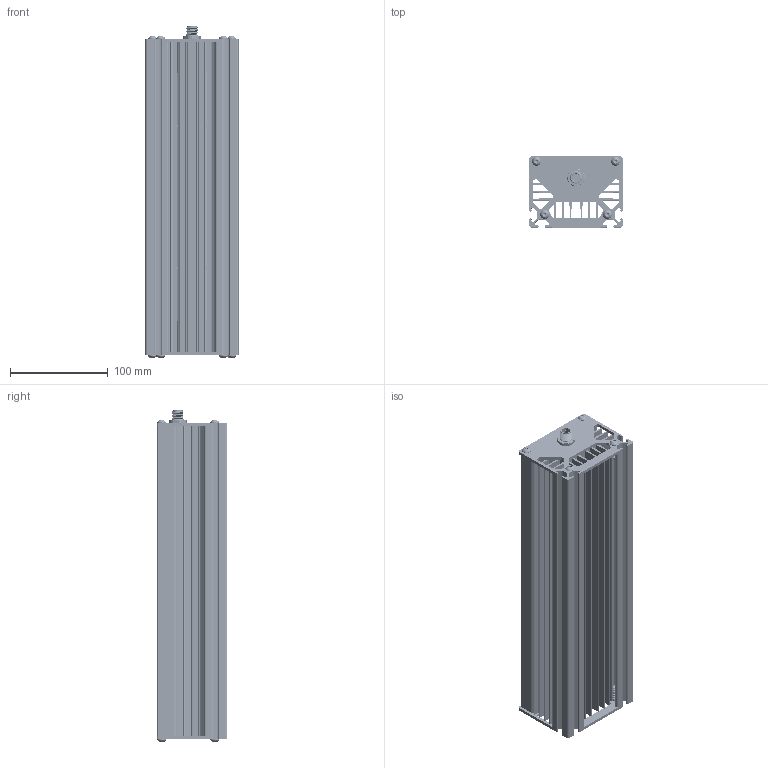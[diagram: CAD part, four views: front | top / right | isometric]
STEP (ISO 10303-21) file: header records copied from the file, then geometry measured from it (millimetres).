
FILE_DESCRIPTION (( 'STEP AP214' ), '1' );
FILE_NAME ('MLLT111.5-XXX.STEP', '2026-05-22T22:21:44', ( '' ), ( '' ), 'SwSTEP 2.0', 'SolidWorks 2025', '' );
FILE_SCHEMA (( 'AUTOMOTIVE_DESIGN' ));
Length unit declared in the file: inch
Products named in the file (20): Extrusion MLLT_11.5; 2500-00565C; FSW 4.5-0.2 Connector; 2500-00565C-SB; 2500-00565C-SBN; xpg3; 10-32 x .750_92949A269; MLL111.5-3535; 2610-00066-DOME; Extrusion MLLT_End M12 B&L-code; MLL111.5-3535_PCB-LL111.5; Extrusion MLLT_End; SD-MLLTxxxx_11.5; MLLT111.5-XXX; LED-Lens Holder and Lens; Standard Lens; 2500-00565C-BT; 2500-00565C_ASM; 3535_holder_10568; 2060-401
Assembly tree (40 placements, depth 6):
  MLLT111.5-XXX
    Extrusion MLLT_11.5
    Extrusion MLLT_End M12 B&L-code
    Extrusion MLLT_End
    10-32 x .750_92949A269  x8
    FSW 4.5-0.2 Connector
    MLL111.5-3535
      MLL111.5-3535_PCB-LL111.5
      LED-Lens Holder and Lens  x12
        3535_holder_10568
        xpg3
          2500-00565C_ASM
            2500-00565C
            2500-00565C-BT
            2500-00565C-SBN
            2500-00565C-SB
          2610-00066-DOME
        Standard Lens
      2060-401  x4
    SD-MLLTxxxx_11.5
Bounding box: 95.25 x 72.5 x 339.47 mm (x, y, z)
Volume: 673001.7 mm3; surface area: 515535.4 mm2
Topology: 129 solids, 129 shells, 4098 faces, 10617 edges, 6854 vertices
Faces by surface type: plane 2069, cylinder 958, cone 743, bspline 298, torus 18, sphere 12
Full cylindrical faces by diameter (mm): 0.05 x12, 0.063 x24, 1 x17, 2.25 x4, 2.261 x4, 4.178 x184, 4.826 x176, 5.105 x8, 5.944 x12, 8 x1, 8.3 x1, 9 x1, 9.169 x8, 9.4 x1, 9.45 x2, 9.9 x1, 10 x1, 10.5 x1, 11.4 x1, 12 x1, 13.5 x2, 19.71 x12
Entity records: 36579 total; most frequent: CARTESIAN_POINT 10953, DIRECTION 5010, ORIENTED_EDGE 4888, EDGE_CURVE 2444, AXIS2_PLACEMENT_3D 1804, VERTEX_POINT 1677, LINE 1402, VECTOR 1402
